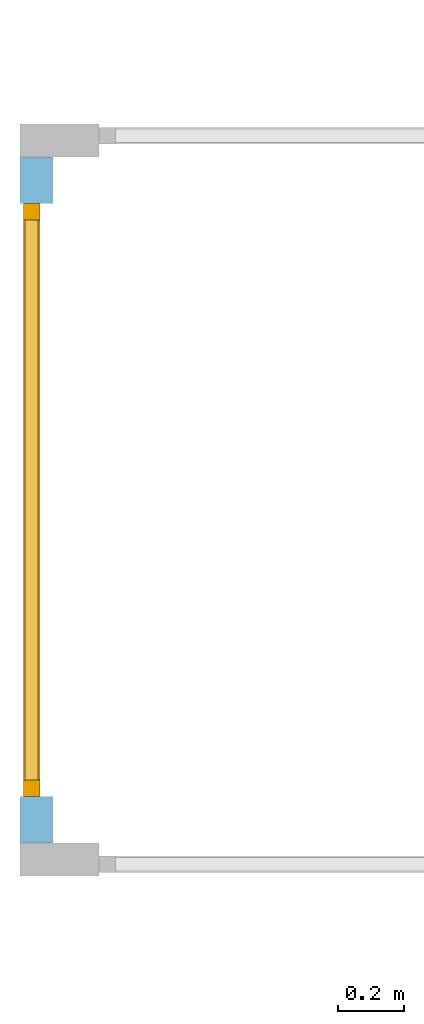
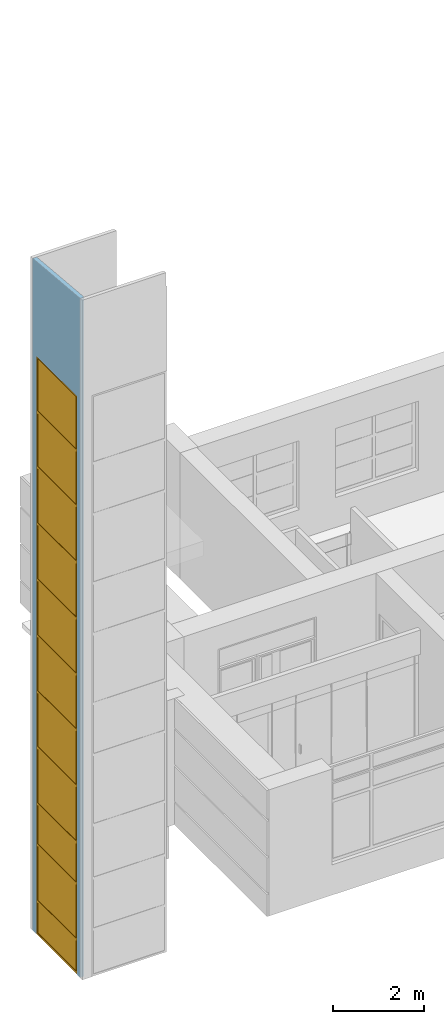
# One storey, part 60 of 66: 1 window, 2 openings, plus 1 element that does not belong to this part.
"""IFC2X3 building model written with IfcOpenShell, lengths in millimetres."""

from ifc_helpers import new_model, entity, si_unit, converted_unit, derived_unit, direction, frame, frame_2d, origin, origin_2d_with_axis, place, context, subcontext, project, spatial, rectangle, extrude, face_set, surface_model, source, transform, mapped, material, material_list, layer, layer_set, layer_usage, type_object, type_shapes, element, fill, save


model = new_model("IFC2X3")

# Units and contexts
model_context = context("Model", 3, precision=0.01, world=origin(), true_north=direction((6.12303176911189e-17, 1.0)))
body_context = subcontext(model_context, "Body", "Model", "MODEL_VIEW")
ifc_project = project(units=[si_unit("LENGTHUNIT", "METRE", prefix="MILLI"), si_unit("AREAUNIT", "SQUARE_METRE"), si_unit("VOLUMEUNIT", "CUBIC_METRE"), converted_unit("PLANEANGLEUNIT", "DEGREE", entity("IfcRatioMeasure", 0.0174532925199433), si_unit("PLANEANGLEUNIT", "RADIAN"), dimensions=[0, 0, 0, 0, 0, 0, 0]), si_unit("MASSUNIT", "GRAM", prefix="KILO"), derived_unit("MASSDENSITYUNIT", [(si_unit("MASSUNIT", "GRAM", prefix="KILO"), 1), (si_unit("LENGTHUNIT", "METRE"), -3)]), si_unit("TIMEUNIT", "SECOND"), si_unit("FREQUENCYUNIT", "HERTZ"), si_unit("THERMODYNAMICTEMPERATUREUNIT", "DEGREE_CELSIUS"), derived_unit("THERMALTRANSMITTANCEUNIT", [(si_unit("MASSUNIT", "GRAM", prefix="KILO"), 1), (si_unit("THERMODYNAMICTEMPERATUREUNIT", "KELVIN"), -1), (si_unit("TIMEUNIT", "SECOND"), -3)]), derived_unit("VOLUMETRICFLOWRATEUNIT", [(si_unit("LENGTHUNIT", "METRE"), 3), (si_unit("TIMEUNIT", "SECOND"), -1)]), si_unit("ELECTRICCURRENTUNIT", "AMPERE"), si_unit("ELECTRICVOLTAGEUNIT", "VOLT"), si_unit("POWERUNIT", "WATT"), si_unit("FORCEUNIT", "NEWTON", prefix="KILO"), si_unit("ILLUMINANCEUNIT", "LUX"), si_unit("LUMINOUSFLUXUNIT", "LUMEN"), si_unit("LUMINOUSINTENSITYUNIT", "CANDELA"), derived_unit("USERDEFINED", [(si_unit("MASSUNIT", "GRAM", prefix="KILO"), -1), (si_unit("LENGTHUNIT", "METRE"), -2), (si_unit("TIMEUNIT", "SECOND"), 3), (si_unit("LUMINOUSFLUXUNIT", "LUMEN"), 1)]), derived_unit("LINEARVELOCITYUNIT", [(si_unit("LENGTHUNIT", "METRE"), 1), (si_unit("TIMEUNIT", "SECOND"), -1)]), si_unit("PRESSUREUNIT", "PASCAL"), derived_unit("USERDEFINED", [(si_unit("LENGTHUNIT", "METRE"), -2), (si_unit("MASSUNIT", "GRAM", prefix="KILO"), 1), (si_unit("TIMEUNIT", "SECOND"), -2)])], contexts=[model_context])

# Site, building, storey
site_placement = place(None, frame((-151.875543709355, 2715.0, 0.0)))
site = spatial("IfcSite", under=ifc_project, at=site_placement, Name="Surface", CompositionType="ELEMENT")
building_placement = place(site_placement, origin())
building = spatial("IfcBuilding", under=site, at=building_placement, CompositionType="ELEMENT")
storey_placement = place(building_placement, frame((0.0, 0.0, 3350.0)))
storey = spatial("IfcBuildingStorey", under=building, at=storey_placement, Name="2 korrus", CompositionType="ELEMENT", Elevation=3350.00000000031)

# Wall, openings, window
ifc_material_1 = material(Name="Lifti sein_hall")
ifc_layer = layer(ifc_material_1, 100.0)
ifc_layer_set = layer_set([ifc_layer], Name="Basic Wall:ol.olev liftišahti sein")
ifc_layer_usage = layer_usage(ifc_layer_set, "AXIS2", "NEGATIVE", 50.0)
wall_type = type_object("IfcWallType", Name="Basic Wall:ol.olev liftišahti sein", PredefinedType="STANDARD", material=ifc_layer_set)
wall_placement = place(storey_placement, frame((-2550.1244545, 4171.05917364, -3350.0), z_axis=(0.0, 0.0, 1.0), x_axis=(0.0, 1.0, 0.0)))
wall = element("IfcWallStandardCase", 1, at=wall_placement, inside=storey, type_object=wall_type, material=ifc_layer_usage, Name="SEIN - 007", ObjectType="Basic Wall:ol.olev liftišahti sein", context=body_context, shape_type="SweptSolid", body=[
    extrude(rectangle(XDim=2080.0, YDim=100.0, at=frame_2d((1040.0, 0.0), x_axis=(-1.0, 0.0))), origin(), (0.0, 0.0, 1.0), 18210.4917651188),
])
opening_1_placement = place(wall_placement, origin())
element("IfcOpeningElement", 2, at=opening_1_placement, cuts=wall, Name="SEIN - 007", ObjectType="Opening", context=body_context, shape_type="SweptSolid", body=[
    extrude(rectangle(XDim=18768.2745218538, YDim=37536.5490437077, at=origin_2d_with_axis()), frame((3502.83210505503, -18768.2745218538, 27316.8831500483), z_axis=(0.0, 1.0, 0.0), x_axis=(-0.0897936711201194, 0.0, -0.995960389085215)), (0.0, 0.0, 1.0), 37536.5490437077),
])
opening_2_placement = place(wall_placement, frame((-4171.05917364, -2550.1244545, 3350.0), z_axis=(0.0, 0.0, 1.0), x_axis=(0.0, -1.0, 0.0)))
opening_2 = element("IfcOpeningElement", 3, at=opening_2_placement, cuts=wall, Name="SEIN - 007", ObjectType="Opening", context=body_context, shape_type="SweptSolid", body=[
    extrude(rectangle(XDim=15500.0, YDim=1800.0, at=origin_2d_with_axis()), frame((-2398.2244545, 5211.05917364, 4400.0), z_axis=(-1.0, 0.0, 0.0), x_axis=(0.0, 0.0, -1.0)), (0.0, 0.0, 1.0), 303.0),
])
ifc_material_2 = material(Name="Paint - Dark Gray")
ifc_material_3 = material(Name="Glass - Clear Fast")
ifc_material_list_1 = material_list([ifc_material_2, ifc_material_3])
ifc_material_list_2 = material_list([ifc_material_2, ifc_material_3])
window_style = type_object("IfcWindowStyle", Name="AKEN - 003", ConstructionType="NOTDEFINED", OperationType="NOTDEFINED", ParameterTakesPrecedence=False, Sizeable=False, material=ifc_material_list_2)
shared_shape = source(origin(), body_context, "Body", "SurfaceModel", [
    surface_model("IfcFaceBasedSurfaceModel", [(50.0, 111.1, 15450.0), (50.0, 161.1, 15450.0), (0.0, 161.1, 15450.0), (0.0, 111.1, 15450.0), (50.0, 111.1, 50.0), (50.0, 161.1, 50.0), (50.0, 161.1, 15450.0), (50.0, 111.1, 15450.0), (50.0, 161.1, 15450.0), (50.0, 161.1, 50.0), (0.0, 161.1, 50.0), (0.0, 161.1, 15450.0), (0.0, 111.1, 15450.0), (0.0, 161.1, 15450.0), (0.0, 161.1, 50.0), (0.0, 111.1, 50.0), (50.0, 111.1, 15450.0), (0.0, 111.1, 15450.0), (0.0, 111.1, 50.0), (50.0, 111.1, 50.0), (0.0, 111.1, 50.0), (0.0, 161.1, 50.0), (50.0, 161.1, 50.0), (50.0, 111.1, 50.0), (1750.0, 111.1, 50.0), (1750.0, 161.1, 50.0), (1800.0, 161.1, 50.0), (1800.0, 111.1, 50.0), (1750.0, 111.1, 15450.0), (1750.0, 161.1, 15450.0), (1750.0, 161.1, 50.0), (1750.0, 111.1, 50.0), (1750.0, 161.1, 50.0), (1750.0, 161.1, 15450.0), (1800.0, 161.1, 15450.0), (1800.0, 161.1, 50.0), (1800.0, 111.1, 50.0), (1800.0, 161.1, 50.0), (1800.0, 161.1, 15450.0), (1800.0, 111.1, 15450.0), (1750.0, 111.1, 50.0), (1800.0, 111.1, 50.0), (1800.0, 111.1, 15450.0), (1750.0, 111.1, 15450.0), (1800.0, 111.1, 15450.0), (1800.0, 161.1, 15450.0), (1750.0, 161.1, 15450.0), (1750.0, 111.1, 15450.0), (50.0, 111.1, 50.0), (50.0, 161.1, 50.0), (0.0, 161.1, 50.0), (0.0, 111.1, 50.0), (1750.0, 111.1, 50.0), (1750.0, 161.1, 50.0), (50.0, 161.1, 50.0), (50.0, 111.1, 50.0), (50.0, 161.1, 50.0), (1750.0, 161.1, 50.0), (1800.0, 161.1, 50.0), (1800.0, 161.1, 0.0), (0.0, 161.1, 0.0), (0.0, 161.1, 50.0), (0.0, 111.1, 50.0), (0.0, 161.1, 50.0), (0.0, 161.1, 0.0), (0.0, 111.1, 0.0), (50.0, 111.1, 50.0), (0.0, 111.1, 50.0), (0.0, 111.1, 0.0), (1800.0, 111.1, 0.0), (1800.0, 111.1, 50.0), (1750.0, 111.1, 50.0), (1800.0, 111.1, 50.0), (1800.0, 161.1, 50.0), (1750.0, 161.1, 50.0), (1750.0, 111.1, 50.0), (1800.0, 111.1, 0.0), (1800.0, 161.1, 0.0), (1800.0, 161.1, 50.0), (1800.0, 111.1, 50.0), (0.0, 111.1, 0.0), (0.0, 161.1, 0.0), (1800.0, 161.1, 0.0), (1800.0, 111.1, 0.0), (1750.0, 111.1, 15450.0), (1750.0, 161.1, 15450.0), (1800.0, 161.1, 15450.0), (1800.0, 111.1, 15450.0), (50.0, 111.1, 15450.0), (50.0, 161.1, 15450.0), (1750.0, 161.1, 15450.0), (1750.0, 111.1, 15450.0), (1750.0, 161.1, 15450.0), (50.0, 161.1, 15450.0), (0.0, 161.1, 15450.0), (0.0, 161.1, 15500.0), (1800.0, 161.1, 15500.0), (1800.0, 161.1, 15450.0), (1800.0, 111.1, 15450.0), (1800.0, 161.1, 15450.0), (1800.0, 161.1, 15500.0), (1800.0, 111.1, 15500.0), (1750.0, 111.1, 15450.0), (1800.0, 111.1, 15450.0), (1800.0, 111.1, 15500.0), (0.0, 111.1, 15500.0), (0.0, 111.1, 15450.0), (50.0, 111.1, 15450.0), (0.0, 111.1, 15450.0), (0.0, 161.1, 15450.0), (50.0, 161.1, 15450.0), (50.0, 111.1, 15450.0), (0.0, 111.1, 15500.0), (0.0, 161.1, 15500.0), (0.0, 161.1, 15450.0), (0.0, 111.1, 15450.0), (1800.0, 111.1, 15500.0), (1800.0, 161.1, 15500.0), (0.0, 161.1, 15500.0), (0.0, 111.1, 15500.0), (50.0, 116.1, 855.89345932), (50.0, 156.1, 855.89345932), (1750.0, 156.1, 855.89345932), (1750.0, 116.1, 855.89345932), (50.0, 116.1, 925.89345932), (50.0, 156.1, 925.89345932), (50.0, 156.1, 855.89345932), (50.0, 116.1, 855.89345932), (50.0, 156.1, 855.89345932), (50.0, 156.1, 925.89345932), (1750.0, 156.1, 925.89345932), (1750.0, 156.1, 855.89345932), (1750.0, 116.1, 855.89345932), (1750.0, 156.1, 855.89345932), (1750.0, 156.1, 925.89345932), (1750.0, 116.1, 925.89345932), (50.0, 116.1, 855.89345932), (1750.0, 116.1, 855.89345932), (1750.0, 116.1, 925.89345932), (50.0, 116.1, 925.89345932), (1750.0, 116.1, 925.89345932), (1750.0, 156.1, 925.89345932), (50.0, 156.1, 925.89345932), (50.0, 116.1, 925.89345932), (50.0, 116.1, 2364.45363998), (50.0, 156.1, 2364.45363998), (1750.0, 156.1, 2364.45363998), (1750.0, 116.1, 2364.45363998), (50.0, 116.1, 2434.45363998), (50.0, 156.1, 2434.45363998), (50.0, 156.1, 2364.45363998), (50.0, 116.1, 2364.45363998), (50.0, 156.1, 2364.45363998), (50.0, 156.1, 2434.45363998), (1750.0, 156.1, 2434.45363998), (1750.0, 156.1, 2364.45363998), (1750.0, 116.1, 2364.45363998), (1750.0, 156.1, 2364.45363998), (1750.0, 156.1, 2434.45363998), (1750.0, 116.1, 2434.45363998), (50.0, 116.1, 2364.45363998), (1750.0, 116.1, 2364.45363998), (1750.0, 116.1, 2434.45363998), (50.0, 116.1, 2434.45363998), (1750.0, 116.1, 2434.45363998), (1750.0, 156.1, 2434.45363998), (50.0, 156.1, 2434.45363998), (50.0, 116.1, 2434.45363998), (50.0, 116.1, 3466.07717514), (50.0, 156.1, 3466.07717514), (1750.0, 156.1, 3466.07717514), (1750.0, 116.1, 3466.07717514), (50.0, 116.1, 3536.07717514), (50.0, 156.1, 3536.07717514), (50.0, 156.1, 3466.07717514), (50.0, 116.1, 3466.07717514), (50.0, 156.1, 3466.07717514), (50.0, 156.1, 3536.07717514), (1750.0, 156.1, 3536.07717514), (1750.0, 156.1, 3466.07717514), (1750.0, 116.1, 3466.07717514), (1750.0, 156.1, 3466.07717514), (1750.0, 156.1, 3536.07717514), (1750.0, 116.1, 3536.07717514), (50.0, 116.1, 3466.07717514), (1750.0, 116.1, 3466.07717514), (1750.0, 116.1, 3536.07717514), (50.0, 116.1, 3536.07717514), (1750.0, 116.1, 3536.07717514), (1750.0, 156.1, 3536.07717514), (50.0, 156.1, 3536.07717514), (50.0, 116.1, 3536.07717514), (50.0, 116.1, 4973.35581583), (50.0, 156.1, 4973.35581583), (1750.0, 156.1, 4973.35581583), (1750.0, 116.1, 4973.35581583), (50.0, 116.1, 5043.35581583), (50.0, 156.1, 5043.35581583), (50.0, 156.1, 4973.35581583), (50.0, 116.1, 4973.35581583), (50.0, 156.1, 4973.35581583), (50.0, 156.1, 5043.35581583), (1750.0, 156.1, 5043.35581583), (1750.0, 156.1, 4973.35581583), (1750.0, 116.1, 4973.35581583), (1750.0, 156.1, 4973.35581583), (1750.0, 156.1, 5043.35581583), (1750.0, 116.1, 5043.35581583), (50.0, 116.1, 4973.35581583), (1750.0, 116.1, 4973.35581583), (1750.0, 116.1, 5043.35581583), (50.0, 116.1, 5043.35581583), (1750.0, 116.1, 5043.35581583), (1750.0, 156.1, 5043.35581583), (50.0, 156.1, 5043.35581583), (50.0, 116.1, 5043.35581583), (50.0, 116.1, 6472.03090717), (50.0, 156.1, 6472.03090717), (1750.0, 156.1, 6472.03090717), (1750.0, 116.1, 6472.03090717), (50.0, 116.1, 6542.03090717), (50.0, 156.1, 6542.03090717), (50.0, 156.1, 6472.03090717), (50.0, 116.1, 6472.03090717), (50.0, 156.1, 6472.03090717), (50.0, 156.1, 6542.03090717), (1750.0, 156.1, 6542.03090717), (1750.0, 156.1, 6472.03090717), (1750.0, 116.1, 6472.03090717), (1750.0, 156.1, 6472.03090717), (1750.0, 156.1, 6542.03090717), (1750.0, 116.1, 6542.03090717), (50.0, 116.1, 6472.03090717), (1750.0, 116.1, 6472.03090717), (1750.0, 116.1, 6542.03090717), (50.0, 116.1, 6542.03090717), (1750.0, 116.1, 6542.03090717), (1750.0, 156.1, 6542.03090717), (50.0, 156.1, 6542.03090717), (50.0, 116.1, 6542.03090717), (50.0, 116.1, 7967.61912912), (50.0, 156.1, 7967.61912912), (1750.0, 156.1, 7967.61912912), (1750.0, 116.1, 7967.61912912), (50.0, 116.1, 8037.61912912), (50.0, 156.1, 8037.61912912), (50.0, 156.1, 7967.61912912), (50.0, 116.1, 7967.61912912), (50.0, 156.1, 7967.61912912), (50.0, 156.1, 8037.61912912), (1750.0, 156.1, 8037.61912912), (1750.0, 156.1, 7967.61912912), (1750.0, 116.1, 7967.61912912), (1750.0, 156.1, 7967.61912912), (1750.0, 156.1, 8037.61912912), (1750.0, 116.1, 8037.61912912), (50.0, 116.1, 7967.61912912), (1750.0, 116.1, 7967.61912912), (1750.0, 116.1, 8037.61912912), (50.0, 116.1, 8037.61912912), (1750.0, 116.1, 8037.61912912), (1750.0, 156.1, 8037.61912912), (50.0, 156.1, 8037.61912912), (50.0, 116.1, 8037.61912912), (50.0, 116.1, 9469.12385074), (50.0, 156.1, 9469.12385074), (1750.0, 156.1, 9469.12385074), (1750.0, 116.1, 9469.12385074), (50.0, 116.1, 9539.12385074), (50.0, 156.1, 9539.12385074), (50.0, 156.1, 9469.12385074), (50.0, 116.1, 9469.12385074), (50.0, 156.1, 9469.12385074), (50.0, 156.1, 9539.12385074), (1750.0, 156.1, 9539.12385074), (1750.0, 156.1, 9469.12385074), (1750.0, 116.1, 9469.12385074), (1750.0, 156.1, 9469.12385074), (1750.0, 156.1, 9539.12385074), (1750.0, 116.1, 9539.12385074), (50.0, 116.1, 9469.12385074), (1750.0, 116.1, 9469.12385074), (1750.0, 116.1, 9539.12385074), (50.0, 116.1, 9539.12385074), (1750.0, 116.1, 9539.12385074), (1750.0, 156.1, 9539.12385074), (50.0, 156.1, 9539.12385074), (50.0, 116.1, 9539.12385074), (50.0, 116.1, 10972.6864853), (50.0, 156.1, 10972.6864853), (1750.0, 156.1, 10972.6864853), (1750.0, 116.1, 10972.6864853), (50.0, 116.1, 11042.6864853), (50.0, 156.1, 11042.6864853), (50.0, 156.1, 10972.6864853), (50.0, 116.1, 10972.6864853), (50.0, 156.1, 10972.6864853), (50.0, 156.1, 11042.6864853), (1750.0, 156.1, 11042.6864853), (1750.0, 156.1, 10972.6864853), (1750.0, 116.1, 10972.6864853), (1750.0, 156.1, 10972.6864853), (1750.0, 156.1, 11042.6864853), (1750.0, 116.1, 11042.6864853), (50.0, 116.1, 10972.6864853), (1750.0, 116.1, 10972.6864853), (1750.0, 116.1, 11042.6864853), (50.0, 116.1, 11042.6864853), (1750.0, 116.1, 11042.6864853), (1750.0, 156.1, 11042.6864853), (50.0, 156.1, 11042.6864853), (50.0, 116.1, 11042.6864853), (50.0, 116.1, 12482.2927324), (50.0, 156.1, 12482.2927324), (1750.0, 156.1, 12482.2927324), (1750.0, 116.1, 12482.2927324), (50.0, 116.1, 12552.2927324), (50.0, 156.1, 12552.2927324), (50.0, 156.1, 12482.2927324), (50.0, 116.1, 12482.2927324), (50.0, 156.1, 12482.2927324), (50.0, 156.1, 12552.2927324), (1750.0, 156.1, 12552.2927324), (1750.0, 156.1, 12482.2927324), (1750.0, 116.1, 12482.2927324), (1750.0, 156.1, 12482.2927324), (1750.0, 156.1, 12552.2927324), (1750.0, 116.1, 12552.2927324), (50.0, 116.1, 12482.2927324), (1750.0, 116.1, 12482.2927324), (1750.0, 116.1, 12552.2927324), (50.0, 116.1, 12552.2927324), (1750.0, 116.1, 12552.2927324), (1750.0, 156.1, 12552.2927324), (50.0, 156.1, 12552.2927324), (50.0, 116.1, 12552.2927324), (50.0, 116.1, 13967.3090441), (50.0, 156.1, 13967.3090441), (1750.0, 156.1, 13967.3090441), (1750.0, 116.1, 13967.3090441), (50.0, 116.1, 14037.3090441), (50.0, 156.1, 14037.3090441), (50.0, 156.1, 13967.3090441), (50.0, 116.1, 13967.3090441), (50.0, 156.1, 13967.3090441), (50.0, 156.1, 14037.3090441), (1750.0, 156.1, 14037.3090441), (1750.0, 156.1, 13967.3090441), (1750.0, 116.1, 13967.3090441), (1750.0, 156.1, 13967.3090441), (1750.0, 156.1, 14037.3090441), (1750.0, 116.1, 14037.3090441), (50.0, 116.1, 13967.3090441), (1750.0, 116.1, 13967.3090441), (1750.0, 116.1, 14037.3090441), (50.0, 116.1, 14037.3090441), (1750.0, 116.1, 14037.3090441), (1750.0, 156.1, 14037.3090441), (50.0, 156.1, 14037.3090441), (50.0, 116.1, 14037.3090441)], [face_set([[[0, 1, 2, 3]]]), face_set([[[4, 5, 6, 7]]]), face_set([[[8, 9, 10, 11]]]), face_set([[[12, 13, 14, 15]]]), face_set([[[16, 17, 18, 19]]]), face_set([[[20, 21, 22, 23]]]), face_set([[[24, 25, 26, 27]]]), face_set([[[28, 29, 30, 31]]]), face_set([[[32, 33, 34, 35]]]), face_set([[[36, 37, 38, 39]]]), face_set([[[40, 41, 42, 43]]]), face_set([[[44, 45, 46, 47]]]), face_set([[[48, 49, 50, 51]]]), face_set([[[52, 53, 54, 55]]]), face_set([[[56, 57, 58, 59, 60, 61]]]), face_set([[[62, 63, 64, 65]]]), face_set([[[66, 67, 68, 69, 70, 71]]]), face_set([[[72, 73, 74, 75]]]), face_set([[[76, 77, 78, 79]]]), face_set([[[80, 81, 82, 83]]]), face_set([[[84, 85, 86, 87]]]), face_set([[[88, 89, 90, 91]]]), face_set([[[92, 93, 94, 95, 96, 97]]]), face_set([[[98, 99, 100, 101]]]), face_set([[[102, 103, 104, 105, 106, 107]]]), face_set([[[108, 109, 110, 111]]]), face_set([[[112, 113, 114, 115]]]), face_set([[[116, 117, 118, 119]]]), face_set([[[120, 121, 122, 123]]]), face_set([[[124, 125, 126, 127]]]), face_set([[[128, 129, 130, 131]]]), face_set([[[132, 133, 134, 135]]]), face_set([[[136, 137, 138, 139]]]), face_set([[[140, 141, 142, 143]]]), face_set([[[144, 145, 146, 147]]]), face_set([[[148, 149, 150, 151]]]), face_set([[[152, 153, 154, 155]]]), face_set([[[156, 157, 158, 159]]]), face_set([[[160, 161, 162, 163]]]), face_set([[[164, 165, 166, 167]]]), face_set([[[168, 169, 170, 171]]]), face_set([[[172, 173, 174, 175]]]), face_set([[[176, 177, 178, 179]]]), face_set([[[180, 181, 182, 183]]]), face_set([[[184, 185, 186, 187]]]), face_set([[[188, 189, 190, 191]]]), face_set([[[192, 193, 194, 195]]]), face_set([[[196, 197, 198, 199]]]), face_set([[[200, 201, 202, 203]]]), face_set([[[204, 205, 206, 207]]]), face_set([[[208, 209, 210, 211]]]), face_set([[[212, 213, 214, 215]]]), face_set([[[216, 217, 218, 219]]]), face_set([[[220, 221, 222, 223]]]), face_set([[[224, 225, 226, 227]]]), face_set([[[228, 229, 230, 231]]]), face_set([[[232, 233, 234, 235]]]), face_set([[[236, 237, 238, 239]]]), face_set([[[240, 241, 242, 243]]]), face_set([[[244, 245, 246, 247]]]), face_set([[[248, 249, 250, 251]]]), face_set([[[252, 253, 254, 255]]]), face_set([[[256, 257, 258, 259]]]), face_set([[[260, 261, 262, 263]]]), face_set([[[264, 265, 266, 267]]]), face_set([[[268, 269, 270, 271]]]), face_set([[[272, 273, 274, 275]]]), face_set([[[276, 277, 278, 279]]]), face_set([[[280, 281, 282, 283]]]), face_set([[[284, 285, 286, 287]]]), face_set([[[288, 289, 290, 291]]]), face_set([[[292, 293, 294, 295]]]), face_set([[[296, 297, 298, 299]]]), face_set([[[300, 301, 302, 303]]]), face_set([[[304, 305, 306, 307]]]), face_set([[[308, 309, 310, 311]]]), face_set([[[312, 313, 314, 315]]]), face_set([[[316, 317, 318, 319]]]), face_set([[[320, 321, 322, 323]]]), face_set([[[324, 325, 326, 327]]]), face_set([[[328, 329, 330, 331]]]), face_set([[[332, 333, 334, 335]]]), face_set([[[336, 337, 338, 339]]]), face_set([[[340, 341, 342, 343]]]), face_set([[[344, 345, 346, 347]]]), face_set([[[348, 349, 350, 351]]]), face_set([[[352, 353, 354, 355]]]), face_set([[[356, 357, 358, 359]]])]),
    surface_model("IfcFaceBasedSurfaceModel", [(50.0, 126.1, 50.0), (1750.0, 126.1, 50.0), (1750.0, 126.1, 15450.0), (50.0, 126.1, 15450.0), (50.0, 146.1, 50.0), (50.0, 146.1, 15450.0), (1750.0, 146.1, 15450.0), (1750.0, 146.1, 50.0)], [face_set([[[0, 1, 2, 3]]]), face_set([[[4, 5, 6, 7]]])]),
])
type_shapes(window_style, [shared_shape])
window_placement = place(opening_2_placement, frame((-2701.2244545, 6111.05917364, -3350.0), z_axis=(0.0, 0.0, 1.0), x_axis=(0.0, -1.0, 0.0)))
window = element("IfcWindow", 4, at=window_placement, inside=storey, type_object=window_style, material=ifc_material_list_1, Name="AKEN - 003 67802:AKEN - 003 67802", ObjectType="AKEN - 003 67802", OverallHeight=1800.0, OverallWidth=15500.0, context=body_context, shape_type="MappedRepresentation", body=[
    mapped(shared_shape, transform((0.0, 0.0, 0.0), scale=1.0)),
])
fill(opening_2, window)

save(model, "model.ifc")
